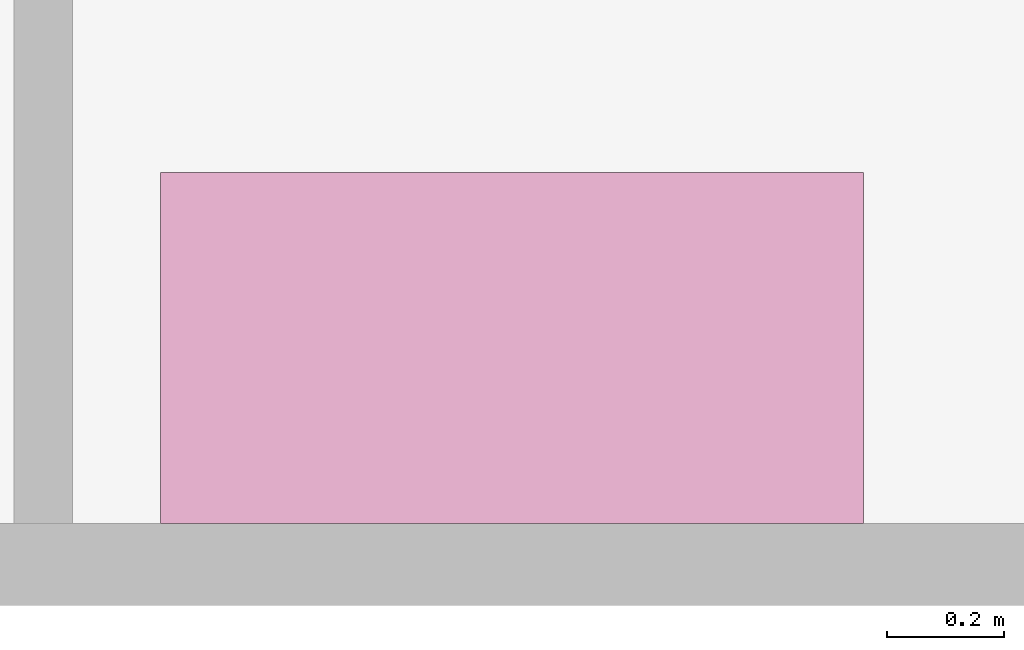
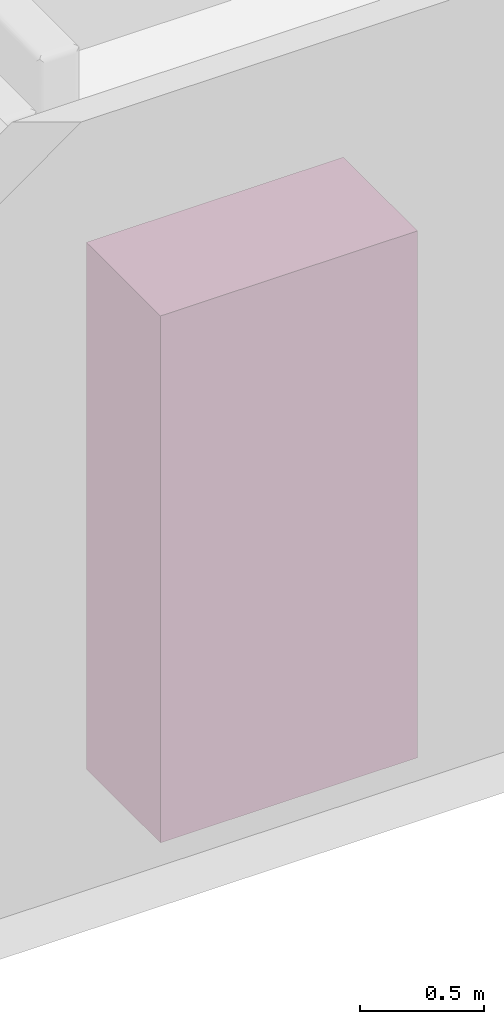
# One storey, part 64 of 69: 1 furniture element.
"""IFC4 building model written with IfcOpenShell, lengths in centimetres."""

import ifcopenshell
import ifcopenshell.guid

model = None  # the IFC model being written
_history = None  # IfcOwnerHistory: only IFC2X3 demands one
_inside = {}  # id of a spatial element -> (the spatial element, [elements in it])
_under = {}  # id of a project, library or spatial element -> (it, [spatial elements below it])
_declared = {}  # id of a project -> (the project, [libraries it declares])
_typed = {}  # id of a type object -> (the type object, [elements of that type])
_made_of = {}  # id of a material, layer set ... -> (it, [elements and type objects made of it])


def new_model(schema):
    """Start an empty IFC model of exactly this schema.

    Asked for "IFC4X3", IfcOpenShell would pick the latest addendum, in which some entities
    have other attributes; the version numbers below select the first issue.
    IFC2X3 requires an IfcOwnerHistory on every rooted entity: one is made here for all.
    """
    global model, _history
    if schema == "IFC4X3":
        model = ifcopenshell.file(schema_version=(4, 3, 0, 0))
    else:
        model = ifcopenshell.file(schema=schema)
    _inside.clear()
    _under.clear()
    _declared.clear()
    _typed.clear()
    _made_of.clear()
    _history = None
    if model.schema == "IFC2X3":
        org = make("IfcOrganization", Name="unknown")
        user = make(
            "IfcPersonAndOrganization",
            ThePerson=make("IfcPerson", FamilyName="unknown"),
            TheOrganization=org,
        )
        app = make(
            "IfcApplication",
            ApplicationDeveloper=org,
            Version="unknown",
            ApplicationFullName="unknown",
            ApplicationIdentifier="unknown",
        )
        _history = make(
            "IfcOwnerHistory",
            OwningUser=user,
            OwningApplication=app,
            ChangeAction="ADDED",
            CreationDate=0,
        )
    return model


def make(cls, **values):
    """One entity of the class cls with the attributes given. An attribute that is None is left unset."""
    return model.create_entity(
        cls, **{name: value for name, value in values.items() if value is not None}
    )


def entity(cls, *values):
    """Any entity or typed value of the class cls, its attributes in the order of the schema. None: left unset."""
    e = model.create_entity(cls)
    for i, value in enumerate(values):
        if value is not None:
            e[i] = value
    return e


def rooted(cls, **values):
    """An entity with a GlobalId (a new one), such as an element, a storey or a relation."""
    return make(cls, GlobalId=ifcopenshell.guid.new(), OwnerHistory=_history, **values)


def si_unit(unit_type, name, prefix=None):
    """IfcSIUnit, for example si_unit("LENGTHUNIT", "METRE", prefix="MILLI")."""
    return make("IfcSIUnit", UnitType=unit_type, Prefix=prefix, Name=name)


def converted_unit(unit_type, name, factor, base, dimensions=None, offset=None):
    """IfcConversionBasedUnit, such as the inch: factor (a typed value) times the base unit."""
    return make(
        "IfcConversionBasedUnit"
        if offset is None
        else "IfcConversionBasedUnitWithOffset",
        ConversionOffset=offset,
        Dimensions=None
        if dimensions is None
        else entity("IfcDimensionalExponents", *dimensions),
        UnitType=unit_type,
        Name=name,
        ConversionFactor=make(
            "IfcMeasureWithUnit", ValueComponent=factor, UnitComponent=base
        ),
    )


def derived_unit(unit_type, elements):
    """IfcDerivedUnit: a product of units, each with its exponent."""
    return make(
        "IfcDerivedUnit",
        Elements=[
            make("IfcDerivedUnitElement", Unit=unit, Exponent=power)
            for unit, power in elements
        ],
        UnitType=unit_type,
    )


def assignment(units):
    """IfcUnitAssignment: the units of a project."""
    return None if units is None else make("IfcUnitAssignment", Units=units)


def point(xyz):
    """IfcCartesianPoint."""
    return None if xyz is None else make("IfcCartesianPoint", Coordinates=xyz)


def direction(xyz):
    """IfcDirection."""
    return None if xyz is None else make("IfcDirection", DirectionRatios=xyz)


def frame(location, z_axis=None, x_axis=None):
    """IfcAxis2Placement3D, a coordinate frame: its origin and axes. An axis left out is left unset."""
    return make(
        "IfcAxis2Placement3D",
        Location=point(location),
        Axis=direction(z_axis),
        RefDirection=direction(x_axis),
    )


def origin():
    """The frame at (0, 0, 0) with its axes left unset."""
    return frame((0.0, 0.0, 0.0))


def place(relative_to, where):
    """IfcLocalPlacement: puts the frame where relative to a parent placement (None: the world)."""
    return make(
        "IfcLocalPlacement", PlacementRelTo=relative_to, RelativePlacement=where
    )


def context(
    kind, dimensions, precision=None, world=None, true_north=None, identifier=None
):
    """IfcGeometricRepresentationContext, for example the 3D "Model" context."""
    return make(
        "IfcGeometricRepresentationContext",
        ContextIdentifier=identifier,
        ContextType=kind,
        CoordinateSpaceDimension=dimensions,
        Precision=precision,
        WorldCoordinateSystem=world,
        TrueNorth=true_north,
    )


def subcontext(parent, identifier, kind, view, scale=None):
    """IfcGeometricRepresentationSubContext, for example "Body" below "Model"."""
    return make(
        "IfcGeometricRepresentationSubContext",
        ContextIdentifier=identifier,
        ContextType=kind,
        ParentContext=parent,
        TargetScale=scale,
        TargetView=view,
    )


def project(units=None, contexts=None):
    """IfcProject with its units and contexts."""
    return rooted(
        "IfcProject",
        Name="project",
        RepresentationContexts=contexts,
        UnitsInContext=assignment(units),
    )


def spatial(cls, under=None, at=None, **own):
    """A site, building, storey or space (cls), placed at a placement, below another one or the project."""
    s = rooted(cls, ObjectPlacement=at, **own)
    if under is not None:
        _under.setdefault(under.id(), (under, []))[1].append(s)
    return s


def point_list(points):
    """IfcCartesianPointList2D or 3D."""
    cls = (
        "IfcCartesianPointList2D" if len(points[0]) == 2 else "IfcCartesianPointList3D"
    )
    return make(cls, CoordList=points)


def indexed_curve(points, segments=None, self_intersect=None):
    """IfcIndexedPolyCurve: lines and arcs through numbered points (the first is 1)."""
    return make(
        "IfcIndexedPolyCurve",
        Points=point_list(points),
        Segments=segments,
        SelfIntersect=self_intersect,
    )


def outline(outer, holes=None, kind="AREA"):
    """IfcArbitraryClosedProfileDef: a profile drawn as a closed curve; with holes, ...WithVoids."""
    if holes is None:
        return make("IfcArbitraryClosedProfileDef", ProfileType=kind, OuterCurve=outer)
    return make(
        "IfcArbitraryProfileDefWithVoids",
        ProfileType=kind,
        OuterCurve=outer,
        InnerCurves=holes,
    )


def extrude(swept, where, along, depth):
    """IfcExtrudedAreaSolid: the profile swept, set in the frame where, extruded along a direction by depth."""
    return make(
        "IfcExtrudedAreaSolid",
        SweptArea=swept,
        Position=where,
        ExtrudedDirection=direction(along),
        Depth=depth,
    )


def shape(context_of_items, identifier, shape_type, items):
    """IfcShapeRepresentation: the items that make up one representation, for example the "Body"."""
    return make(
        "IfcShapeRepresentation",
        ContextOfItems=context_of_items,
        RepresentationIdentifier=identifier,
        RepresentationType=shape_type,
        Items=items,
    )


def source(mapping_origin, context_of_items, identifier, shape_type, items):
    """IfcRepresentationMap: a shape defined once, which mapped items show again and again."""
    return make(
        "IfcRepresentationMap",
        MappingOrigin=mapping_origin,
        MappedRepresentation=shape(context_of_items, identifier, shape_type, items),
    )


def transform(
    local_origin,
    x_axis=None,
    y_axis=None,
    z_axis=None,
    scale=None,
    scale2=None,
    scale3=None,
    uniform=True,
):
    """IfcCartesianTransformationOperator3D, or its non-uniform kind. x_axis, y_axis, z_axis: its Axis1, 2, 3."""
    if uniform:
        return make(
            "IfcCartesianTransformationOperator3D",
            Axis1=direction(x_axis),
            Axis2=direction(y_axis),
            LocalOrigin=point(local_origin),
            Scale=scale,
            Axis3=direction(z_axis),
        )
    return make(
        "IfcCartesianTransformationOperator3DnonUniform",
        Axis1=direction(x_axis),
        Axis2=direction(y_axis),
        LocalOrigin=point(local_origin),
        Scale=scale,
        Axis3=direction(z_axis),
        Scale2=scale2,
        Scale3=scale3,
    )


def mapped(mapping_source, mapping_target):
    """IfcMappedItem: shows the shape of a source again, moved by a transform."""
    return make(
        "IfcMappedItem", MappingSource=mapping_source, MappingTarget=mapping_target
    )


def material(Name=None, Category=None):
    """IfcMaterial."""
    return make("IfcMaterial", Name=Name, Category=Category)


def made_of(thing, what):
    """Note that an element or type object is made of a material, layer set ...; save() writes the relation."""
    if what is not None:
        _made_of.setdefault(what.id(), (what, []))[1].append(thing)
    return thing


def type_object(cls, material=None, **own):
    """A type object (cls), such as IfcWallType, which elements share."""
    return made_of(rooted(cls, **own), material)


def type_shapes(of_type, sources):
    """Give a type object the sources (RepresentationMaps) that its elements show as mapped items."""
    of_type.RepresentationMaps = sources


def element(
    cls,
    number,
    at=None,
    inside=None,
    cuts=None,
    type_object=None,
    material=None,
    context=None,
    identifier="Body",
    shape_type=None,
    held_by="IfcProductDefinitionShape",
    body=None,
    shapes=None,
    **own,
):
    """One element of the class cls, such as IfcWall. Its Tag is "e" and its number.

    at: its placement. inside: the storey or other place that contains it. cuts: it is an
    opening in that element (IfcRelVoidsElement). A single representation is given by context,
    identifier, shape_type and body (its items); several are given by shapes. held_by: the class
    of the entity that holds the representations. save() writes the other relations.
    """
    e = rooted(cls, Tag="e%d" % number, ObjectPlacement=at, **own)
    if body is not None:
        shapes = [shape(context, identifier, shape_type, body)]
    if shapes is not None:
        e.Representation = make(held_by, Representations=shapes)
    if inside is not None:
        _inside.setdefault(inside.id(), (inside, []))[1].append(e)
    if cuts is not None:
        rooted(
            "IfcRelVoidsElement", RelatingBuildingElement=cuts, RelatedOpeningElement=e
        )
    if type_object is not None:
        _typed.setdefault(type_object.id(), (type_object, []))[1].append(e)
    return made_of(e, material)


def aggregate(whole, parts):
    """IfcRelAggregates: a whole, such as a stair, and the parts it consists of."""
    return rooted("IfcRelAggregates", RelatingObject=whole, RelatedObjects=parts)


def save(model, path):
    """Write the relations noted so far, then the file.

    IfcRelAggregates (storeys below a building ...), IfcRelContainedInSpatialStructure (elements
    in a storey), IfcRelDefinesByType, IfcRelAssociatesMaterial and IfcRelDeclares: one each for
    every whole, place, type object, material and project.
    """
    for whole, parts in _under.values():
        aggregate(whole, parts)
    for where, things in _inside.values():
        rooted(
            "IfcRelContainedInSpatialStructure",
            RelatedElements=things,
            RelatingStructure=where,
        )
    for kind, things in _typed.values():
        rooted("IfcRelDefinesByType", RelatedObjects=things, RelatingType=kind)
    for what, things in _made_of.values():
        rooted("IfcRelAssociatesMaterial", RelatedObjects=things, RelatingMaterial=what)
    for by, libraries in _declared.values():
        rooted("IfcRelDeclares", RelatingContext=by, RelatedDefinitions=libraries)
    model.write(path)


model = new_model("IFC4")

# Units and contexts
model_context = context("Model", 3, precision=0.001, world=origin(), true_north=direction((6.123233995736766e-17, 1.0)))
body_context = subcontext(model_context, "Body", "Model", "MODEL_VIEW")
ifc_project = project(units=[si_unit("LENGTHUNIT", "METRE", prefix="CENTI"), si_unit("AREAUNIT", "SQUARE_METRE"), si_unit("VOLUMEUNIT", "CUBIC_METRE"), derived_unit("THERMALTRANSMITTANCEUNIT", [(si_unit("MASSUNIT", "GRAM", prefix="KILO"), 1), (si_unit("THERMODYNAMICTEMPERATUREUNIT", "KELVIN"), -1), (si_unit("TIMEUNIT", "SECOND"), -3)]), converted_unit("PLANEANGLEUNIT", "DEGREE", entity("IfcPlaneAngleMeasure", 0.017453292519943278), si_unit("PLANEANGLEUNIT", "RADIAN"), dimensions=[0, 0, 0, 0, 0, 0, 0]), derived_unit("MASSDENSITYUNIT", [(si_unit("MASSUNIT", "GRAM", prefix="KILO"), 1), (si_unit("LENGTHUNIT", "METRE"), -3)]), derived_unit("VAPORPERMEABILITYUNIT", [(si_unit("LENGTHUNIT", "METRE"), -1), (si_unit("TIMEUNIT", "SECOND"), 1)]), derived_unit("USERDEFINED", [(si_unit("MASSUNIT", "GRAM", prefix="KILO"), 1), (si_unit("TIMEUNIT", "SECOND"), -3), (si_unit("LENGTHUNIT", "METRE"), 3), (si_unit("ELECTRICCURRENTUNIT", "AMPERE"), -2)]), derived_unit("SPECIFICHEATCAPACITYUNIT", [(si_unit("THERMODYNAMICTEMPERATUREUNIT", "KELVIN"), -1), (si_unit("LENGTHUNIT", "METRE"), 2), (si_unit("TIMEUNIT", "SECOND"), -2)]), derived_unit("THERMALCONDUCTANCEUNIT", [(si_unit("MASSUNIT", "GRAM", prefix="KILO"), 1), (si_unit("THERMODYNAMICTEMPERATUREUNIT", "KELVIN"), -1), (si_unit("TIMEUNIT", "SECOND"), -3), (si_unit("LENGTHUNIT", "METRE"), 1)]), si_unit("PRESSUREUNIT", "PASCAL"), derived_unit("MODULUSOFELASTICITYUNIT", [(si_unit("MASSUNIT", "GRAM", prefix="KILO"), 1), (si_unit("LENGTHUNIT", "METRE"), -1), (si_unit("TIMEUNIT", "SECOND"), -2)]), derived_unit("THERMALEXPANSIONCOEFFICIENTUNIT", [(si_unit("THERMODYNAMICTEMPERATUREUNIT", "KELVIN"), -1)])], contexts=[model_context])

# Site, building, storey, space
site_placement = place(None, origin())
site = spatial("IfcSite", under=ifc_project, at=site_placement, Name="Default", CompositionType="ELEMENT")
building_placement = place(site_placement, origin())
building = spatial("IfcBuilding", under=site, at=building_placement, Name="IDS Escape Game Building", CompositionType="ELEMENT")
storey_placement = place(building_placement, origin())
storey = spatial("IfcBuildingStorey", under=building, at=storey_placement, Name="00_Ground Floor", CompositionType="ELEMENT", Elevation=0.0)
space_placement = place(storey_placement, origin())
space = spatial("IfcSpace", under=storey, at=space_placement, Name="6", CompositionType="ELEMENT", PredefinedType="NOTDEFINED")

# Furniture
ifc_material = material(Name="<Unnamed>")
furniture_type = type_object("IfcFurnitureType", Name="BPL_82.11_CA_UN_kast_gen_BERSnl:type 1", AssemblyPlace="NOTDEFINED", PredefinedType="NOTDEFINED", material=ifc_material)
shared_shape = source(origin(), body_context, "Body", "SweptSolid", [
    extrude(outline(indexed_curve([(-59.99999999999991, -29.999999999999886), (59.99999999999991, -29.999999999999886), (59.99999999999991, 29.999999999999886), (-59.99999999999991, 29.999999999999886), (-59.99999999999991, -29.999999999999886)], self_intersect=False)), frame((-60.0, -30.0, 0.0), z_axis=(0.0, 0.0, 1.0), x_axis=(-1.0, 0.0, 0.0)), (0.0, 0.0, 1.0), 260.0),
])
type_shapes(furniture_type, [shared_shape])
furniture_placement = place(space_placement, frame((3987.0, 73.0, 0.0)))
element("IfcFurniture", 1, at=furniture_placement, inside=space, type_object=furniture_type, material=ifc_material, Name="BPL_82.11_CA_UN_kast_gen_BERSnl:type 1", ObjectType="BPL_82.11_CA_UN_kast_gen_BERSnl:type 1", PredefinedType="NOTDEFINED", context=body_context, shape_type="MappedRepresentation", body=[
    mapped(shared_shape, transform((0.0, 0.0, 0.0), scale=1.0)),
])

save(model, "model.ifc")
